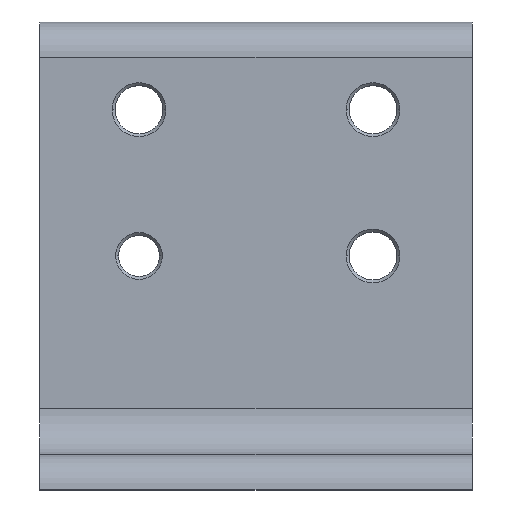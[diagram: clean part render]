
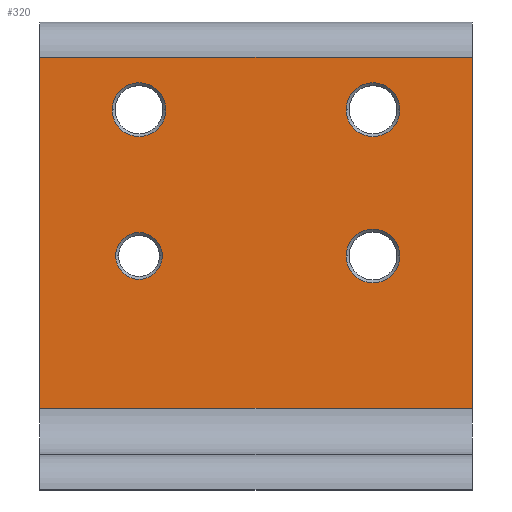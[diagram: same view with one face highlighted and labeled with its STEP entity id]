
A CAD part, top view. The second image highlights one B-rep face of the part: STEP entity #320.
In plain terms, the highlighted planar face has unit normal (0, 0, 1).
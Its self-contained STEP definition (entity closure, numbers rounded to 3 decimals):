
#9 = CIRCLE ( 'NONE', #229, 4.6 ) ;
#17 = DIRECTION ( 'NONE',  ( 0., 0., -1. ) ) ;
#19 = CARTESIAN_POINT ( 'NONE',  ( -20., 65., -14. ) ) ;
#22 = ORIENTED_EDGE ( 'NONE', *, *, #1320, .T. ) ;
#50 = VERTEX_POINT ( 'NONE', #166 ) ;
#85 = AXIS2_PLACEMENT_3D ( 'NONE', #646, #17, #760 ) ;
#102 = DIRECTION ( 'NONE',  ( -1., 0., 0. ) ) ;
#107 = VERTEX_POINT ( 'NONE', #1136 ) ;
#115 = CIRCLE ( 'NONE', #1060, 3.99 ) ;
#127 = DIRECTION ( 'NONE',  ( -1., 0., 0. ) ) ;
#130 = CIRCLE ( 'NONE', #661, 4.6 ) ;
#146 = DIRECTION ( 'NONE',  ( 1., 0., 0. ) ) ;
#160 = CARTESIAN_POINT ( 'NONE',  ( 20., 40., -14. ) ) ;
#166 = CARTESIAN_POINT ( 'NONE',  ( 15.4, 40., -14. ) ) ;
#174 = DIRECTION ( 'NONE',  ( 0., 0., -1. ) ) ;
#209 = DIRECTION ( 'NONE',  ( 0., -1., 0. ) ) ;
#221 = VECTOR ( 'NONE', #209, 1000. ) ;
#229 = AXIS2_PLACEMENT_3D ( 'NONE', #19, #765, #127 ) ;
#230 = DIRECTION ( 'NONE',  ( -1., 0., 0. ) ) ;
#238 = PLANE ( 'NONE',  #333 ) ;
#242 = FACE_BOUND ( 'NONE', #952, .T. ) ;
#259 = EDGE_CURVE ( 'NONE', #50, #107, #1130, .T. ) ;
#264 = DIRECTION ( 'NONE',  ( -1., 0., 0. ) ) ;
#277 = ORIENTED_EDGE ( 'NONE', *, *, #995, .T. ) ;
#279 = EDGE_CURVE ( 'NONE', #1197, #1184, #880, .T. ) ;
#281 = VERTEX_POINT ( 'NONE', #845 ) ;
#288 = VERTEX_POINT ( 'NONE', #1165 ) ;
#300 = VERTEX_POINT ( 'NONE', #425 ) ;
#314 = DIRECTION ( 'NONE',  ( 0., 0., -1. ) ) ;
#320 = ADVANCED_FACE ( 'NONE', ( #805, #242, #848, #1346, #532 ), #238, .F. ) ;
#332 = VERTEX_POINT ( 'NONE', #881 ) ;
#333 = AXIS2_PLACEMENT_3D ( 'NONE', #348, #452, #1207 ) ;
#348 = CARTESIAN_POINT ( 'NONE',  ( -37., 80., -14. ) ) ;
#349 = VERTEX_POINT ( 'NONE', #775 ) ;
#352 = EDGE_LOOP ( 'NONE', ( #391, #1016, #450, #1356 ) ) ;
#369 = DIRECTION ( 'NONE',  ( 0., 0., -1. ) ) ;
#383 = EDGE_CURVE ( 'NONE', #1204, #281, #434, .T. ) ;
#391 = ORIENTED_EDGE ( 'NONE', *, *, #471, .F. ) ;
#425 = CARTESIAN_POINT ( 'NONE',  ( -24.6, 65., -14. ) ) ;
#434 = LINE ( 'NONE', #1318, #1253 ) ;
#444 = CARTESIAN_POINT ( 'NONE',  ( -37., 74., -14. ) ) ;
#450 = ORIENTED_EDGE ( 'NONE', *, *, #883, .T. ) ;
#452 = DIRECTION ( 'NONE',  ( 0., 0., -1. ) ) ;
#455 = EDGE_CURVE ( 'NONE', #288, #332, #115, .T. ) ;
#466 = EDGE_CURVE ( 'NONE', #107, #50, #1148, .T. ) ;
#471 = EDGE_CURVE ( 'NONE', #996, #281, #1188, .T. ) ;
#502 = LINE ( 'NONE', #630, #221 ) ;
#532 = FACE_OUTER_BOUND ( 'NONE', #352, .T. ) ;
#569 = VECTOR ( 'NONE', #1331, 1000. ) ;
#577 = ORIENTED_EDGE ( 'NONE', *, *, #279, .T. ) ;
#621 = ORIENTED_EDGE ( 'NONE', *, *, #466, .T. ) ;
#622 = EDGE_CURVE ( 'NONE', #1184, #1197, #130, .T. ) ;
#625 = ORIENTED_EDGE ( 'NONE', *, *, #259, .T. ) ;
#630 = CARTESIAN_POINT ( 'NONE',  ( -37., 80., -14. ) ) ;
#638 = CIRCLE ( 'NONE', #85, 3.99 ) ;
#646 = CARTESIAN_POINT ( 'NONE',  ( -20., 40., -14. ) ) ;
#661 = AXIS2_PLACEMENT_3D ( 'NONE', #946, #849, #1226 ) ;
#716 = CIRCLE ( 'NONE', #1293, 4.6 ) ;
#738 = DIRECTION ( 'NONE',  ( 0., 0., -1. ) ) ;
#760 = DIRECTION ( 'NONE',  ( -1., 0., 0. ) ) ;
#765 = DIRECTION ( 'NONE',  ( 0., 0., -1. ) ) ;
#775 = CARTESIAN_POINT ( 'NONE',  ( -15.4, 65., -14. ) ) ;
#795 = CARTESIAN_POINT ( 'NONE',  ( 37., 80., -14. ) ) ;
#800 = AXIS2_PLACEMENT_3D ( 'NONE', #1381, #738, #102 ) ;
#805 = FACE_BOUND ( 'NONE', #1063, .T. ) ;
#808 = CARTESIAN_POINT ( 'NONE',  ( -20., 65., -14. ) ) ;
#845 = CARTESIAN_POINT ( 'NONE',  ( 37., 14., -14. ) ) ;
#848 = FACE_BOUND ( 'NONE', #1220, .T. ) ;
#849 = DIRECTION ( 'NONE',  ( 0., 0., -1. ) ) ;
#859 = LINE ( 'NONE', #868, #887 ) ;
#868 = CARTESIAN_POINT ( 'NONE',  ( -37., 74., -14. ) ) ;
#876 = AXIS2_PLACEMENT_3D ( 'NONE', #966, #314, #1070 ) ;
#880 = CIRCLE ( 'NONE', #876, 4.6 ) ;
#881 = CARTESIAN_POINT ( 'NONE',  ( -23.99, 40., -14. ) ) ;
#883 = EDGE_CURVE ( 'NONE', #1360, #1204, #502, .T. ) ;
#887 = VECTOR ( 'NONE', #230, 1000. ) ;
#896 = ORIENTED_EDGE ( 'NONE', *, *, #455, .T. ) ;
#909 = DIRECTION ( 'NONE',  ( 0., 0., -1. ) ) ;
#919 = DIRECTION ( 'NONE',  ( -1., 0., 0. ) ) ;
#946 = CARTESIAN_POINT ( 'NONE',  ( 20., 65., -14. ) ) ;
#952 = EDGE_LOOP ( 'NONE', ( #621, #625 ) ) ;
#966 = CARTESIAN_POINT ( 'NONE',  ( 20., 65., -14. ) ) ;
#967 = CARTESIAN_POINT ( 'NONE',  ( 24.6, 65., -14. ) ) ;
#995 = EDGE_CURVE ( 'NONE', #300, #349, #716, .T. ) ;
#996 = VERTEX_POINT ( 'NONE', #1295 ) ;
#1016 = ORIENTED_EDGE ( 'NONE', *, *, #1339, .T. ) ;
#1019 = CARTESIAN_POINT ( 'NONE',  ( -20., 40., -14. ) ) ;
#1031 = EDGE_LOOP ( 'NONE', ( #22, #277 ) ) ;
#1060 = AXIS2_PLACEMENT_3D ( 'NONE', #1019, #369, #1118 ) ;
#1063 = EDGE_LOOP ( 'NONE', ( #896, #1283 ) ) ;
#1070 = DIRECTION ( 'NONE',  ( -1., 0., 0. ) ) ;
#1071 = CARTESIAN_POINT ( 'NONE',  ( -37., 14., -14. ) ) ;
#1118 = DIRECTION ( 'NONE',  ( -1., 0., 0. ) ) ;
#1130 = CIRCLE ( 'NONE', #800, 4.6 ) ;
#1136 = CARTESIAN_POINT ( 'NONE',  ( 24.6, 40., -14. ) ) ;
#1148 = CIRCLE ( 'NONE', #1201, 4.6 ) ;
#1165 = CARTESIAN_POINT ( 'NONE',  ( -16.01, 40., -14. ) ) ;
#1171 = CARTESIAN_POINT ( 'NONE',  ( 15.4, 65., -14. ) ) ;
#1184 = VERTEX_POINT ( 'NONE', #1171 ) ;
#1188 = LINE ( 'NONE', #795, #569 ) ;
#1197 = VERTEX_POINT ( 'NONE', #967 ) ;
#1201 = AXIS2_PLACEMENT_3D ( 'NONE', #160, #909, #264 ) ;
#1204 = VERTEX_POINT ( 'NONE', #1071 ) ;
#1207 = DIRECTION ( 'NONE',  ( -1., 0., 0. ) ) ;
#1220 = EDGE_LOOP ( 'NONE', ( #577, #1322 ) ) ;
#1226 = DIRECTION ( 'NONE',  ( -1., 0., 0. ) ) ;
#1253 = VECTOR ( 'NONE', #146, 1000. ) ;
#1283 = ORIENTED_EDGE ( 'NONE', *, *, #1302, .T. ) ;
#1293 = AXIS2_PLACEMENT_3D ( 'NONE', #808, #174, #919 ) ;
#1295 = CARTESIAN_POINT ( 'NONE',  ( 37., 74., -14. ) ) ;
#1302 = EDGE_CURVE ( 'NONE', #332, #288, #638, .T. ) ;
#1318 = CARTESIAN_POINT ( 'NONE',  ( -37., 14., -14. ) ) ;
#1320 = EDGE_CURVE ( 'NONE', #349, #300, #9, .T. ) ;
#1322 = ORIENTED_EDGE ( 'NONE', *, *, #622, .T. ) ;
#1331 = DIRECTION ( 'NONE',  ( 0., -1., 0. ) ) ;
#1339 = EDGE_CURVE ( 'NONE', #996, #1360, #859, .T. ) ;
#1346 = FACE_BOUND ( 'NONE', #1031, .T. ) ;
#1356 = ORIENTED_EDGE ( 'NONE', *, *, #383, .T. ) ;
#1360 = VERTEX_POINT ( 'NONE', #444 ) ;
#1381 = CARTESIAN_POINT ( 'NONE',  ( 20., 40., -14. ) ) ;
